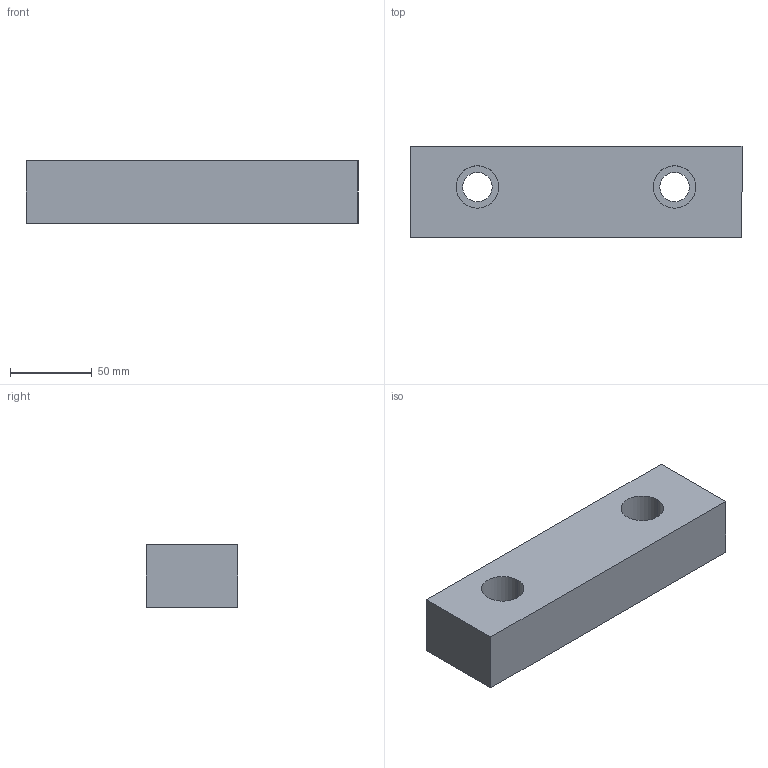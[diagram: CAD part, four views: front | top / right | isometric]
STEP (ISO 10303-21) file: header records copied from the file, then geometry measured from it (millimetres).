
FILE_DESCRIPTION (( 'STEP AP214' ), '1' );
FILE_NAME ('HKMVJ-81.5A, S [05-0234, 05-0237 ref].step', '2023-05-02T20:41:21', ( '' ), ( '' ), 'SwSTEP 2.0', 'SolidWorks 2022', '' );
FILE_SCHEMA (( 'AUTOMOTIVE_DESIGN' ));
Length unit declared in the file: inch
Products named in the file (1): HKMVJ-81.5A, S [05-0234, 05-0237 ref]
Bounding box: 203.2 x 55.88 x 38.1 mm (x, y, z)
Volume: 397746.2 mm3; surface area: 47150.1 mm2
Topology: 1 solids, 1 shells, 16 faces, 36 edges, 24 vertices
Faces by surface type: cylinder 8, plane 8
Entity records: 634 total; most frequent: DIRECTION 86, CARTESIAN_POINT 77, ORIENTED_EDGE 72, EDGE_CURVE 36, AXIS2_PLACEMENT_3D 33, VERTEX_POINT 24, EDGE_LOOP 22, LINE 20
